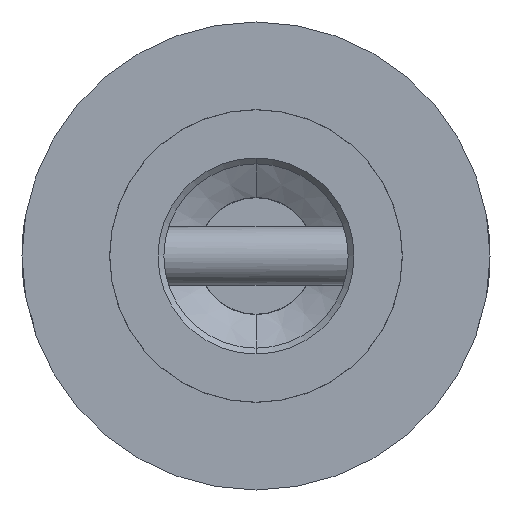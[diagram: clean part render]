
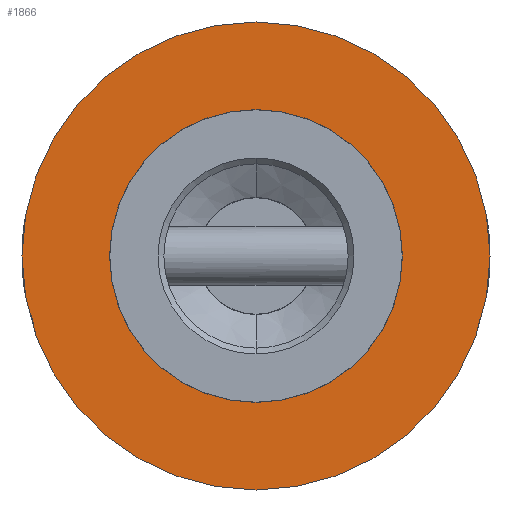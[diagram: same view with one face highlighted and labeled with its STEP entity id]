
A CAD part, front view. The second image highlights one B-rep face of the part: STEP entity #1866.
In plain terms, the highlighted planar face has unit normal (0, -1, 0).
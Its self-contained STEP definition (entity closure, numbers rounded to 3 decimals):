
#89 = CARTESIAN_POINT ( 'NONE',  ( 0., -300., 0. ) ) ;
#187 = AXIS2_PLACEMENT_3D ( 'NONE', #3023, #2978, #2920 ) ;
#249 = CARTESIAN_POINT ( 'NONE',  ( 0., -300., 0. ) ) ;
#329 = VERTEX_POINT ( 'NONE', #2198 ) ;
#355 = AXIS2_PLACEMENT_3D ( 'NONE', #2644, #2241, #2907 ) ;
#372 = EDGE_CURVE ( 'NONE', #2511, #329, #415, .T. ) ;
#415 = CIRCLE ( 'NONE', #187, 8. ) ;
#601 = FACE_BOUND ( 'NONE', #933, .T. ) ;
#798 = AXIS2_PLACEMENT_3D ( 'NONE', #249, #1804, #1023 ) ;
#933 = EDGE_LOOP ( 'NONE', ( #1625, #2152 ) ) ;
#1023 = DIRECTION ( 'NONE',  ( 0., 0., -1. ) ) ;
#1178 = EDGE_CURVE ( 'NONE', #1731, #1972, #2559, .T. ) ;
#1300 = CARTESIAN_POINT ( 'NONE',  ( 0., -300., 5.005 ) ) ;
#1457 = AXIS2_PLACEMENT_3D ( 'NONE', #3355, #3345, #3339 ) ;
#1540 = EDGE_CURVE ( 'NONE', #1972, #1731, #2688, .T. ) ;
#1625 = ORIENTED_EDGE ( 'NONE', *, *, #1540, .F. ) ;
#1731 = VERTEX_POINT ( 'NONE', #1300 ) ;
#1770 = AXIS2_PLACEMENT_3D ( 'NONE', #89, #3283, #3183 ) ;
#1793 = CIRCLE ( 'NONE', #798, 8. ) ;
#1804 = DIRECTION ( 'NONE',  ( 0., -1., 0. ) ) ;
#1866 = ADVANCED_FACE ( 'NONE', ( #601, #3260 ), #3209, .T. ) ;
#1972 = VERTEX_POINT ( 'NONE', #2284 ) ;
#2004 = CARTESIAN_POINT ( 'NONE',  ( 0., -300., 8. ) ) ;
#2152 = ORIENTED_EDGE ( 'NONE', *, *, #1178, .F. ) ;
#2198 = CARTESIAN_POINT ( 'NONE',  ( 0., -300., -8. ) ) ;
#2205 = EDGE_CURVE ( 'NONE', #329, #2511, #1793, .T. ) ;
#2241 = DIRECTION ( 'NONE',  ( 0., -1., 0. ) ) ;
#2249 = ORIENTED_EDGE ( 'NONE', *, *, #2205, .T. ) ;
#2284 = CARTESIAN_POINT ( 'NONE',  ( 0., -300., -5.005 ) ) ;
#2486 = ORIENTED_EDGE ( 'NONE', *, *, #372, .T. ) ;
#2511 = VERTEX_POINT ( 'NONE', #2004 ) ;
#2559 = CIRCLE ( 'NONE', #1770, 5.005 ) ;
#2644 = CARTESIAN_POINT ( 'NONE',  ( 0., -300., 0. ) ) ;
#2688 = CIRCLE ( 'NONE', #1457, 5.005 ) ;
#2907 = DIRECTION ( 'NONE',  ( 0., 0., -1. ) ) ;
#2920 = DIRECTION ( 'NONE',  ( 0., 0., -1. ) ) ;
#2948 = EDGE_LOOP ( 'NONE', ( #2249, #2486 ) ) ;
#2978 = DIRECTION ( 'NONE',  ( 0., -1., 0. ) ) ;
#3023 = CARTESIAN_POINT ( 'NONE',  ( 0., -300., 0. ) ) ;
#3183 = DIRECTION ( 'NONE',  ( 0., 0., -1. ) ) ;
#3209 = PLANE ( 'NONE',  #355 ) ;
#3260 = FACE_OUTER_BOUND ( 'NONE', #2948, .T. ) ;
#3283 = DIRECTION ( 'NONE',  ( 0., -1., 0. ) ) ;
#3339 = DIRECTION ( 'NONE',  ( 0., 0., -1. ) ) ;
#3345 = DIRECTION ( 'NONE',  ( 0., -1., 0. ) ) ;
#3355 = CARTESIAN_POINT ( 'NONE',  ( 0., -300., 0. ) ) ;
